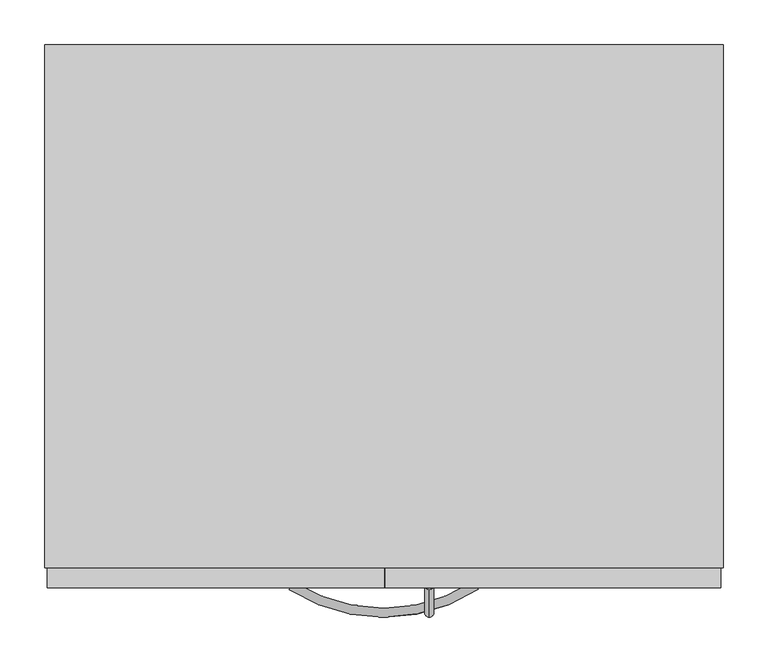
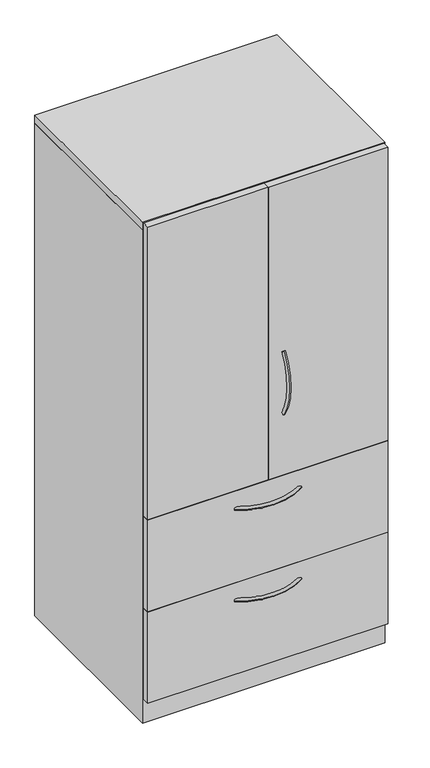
"""IFC4 building model written with IfcOpenShell, lengths in millimetres: furniture geometry, Steelcase - Universal Storage - Cabinet - Combination - Proud Steel : 65 1/2H - Hinged Doors/2 Drawers - 24D x 30W."""

from ifc_helpers import new_model, si_unit, point, frame, origin, place, context, project, spatial, polyline, circle_curve, ellipse_curve, trimmed, outline, extrude, faceted_brep, source, transform, mapped, element, save
from ifc_brep_helpers import plane_surface, revolved_surface, advanced_brep


def furniture_47684e0d(model_context):
    return source(origin(), model_context, "Body", "SolidModel", [
        extrude(outline(polyline([(758.8225413, -479.552), (3.1725353, -479.552), (3.1725353, -457.3261219), (758.8225413, -457.3261219), (758.8225413, -479.552)])), frame((0.0, 0.0, 77.724), z_axis=(0.0, 0.0, 1.0), x_axis=(1.0, 0.0, 0.0)), (0.0, 0.0, 1.0), 303.276),
        extrude(outline(polyline([(758.8225413, -479.552), (3.1725353, -479.552), (3.1725353, -457.3261219), (758.8225413, -457.3261219), (758.8225413, -479.552)])), frame((0.0, 0.0, 382.524), z_axis=(0.0, 0.0, 1.0), x_axis=(1.0, 0.0, 0.0)), (0.0, 0.0, 1.0), 303.276),
        extrude(outline(polyline([(381.0, -479.552), (3.1725353, -479.552), (3.1725353, -457.3261219), (381.0, -457.3261219), (381.0, -479.552)])), frame((0.0, 0.0, 687.7062596), z_axis=(0.0, 0.0, 1.0), x_axis=(1.0, 0.0, 0.0)), (0.0, 0.0, 1.0), 972.82),
        extrude(outline(polyline([(758.8225413, -479.552), (382.5239992, -479.552), (382.5239992, -457.3261219), (758.8225413, -457.3261219), (758.8225413, -479.552)])), frame((0.0, 0.0, 687.7062596), z_axis=(0.0, 0.0, 1.0), x_axis=(1.0, 0.0, 0.0)), (0.0, 0.0, 1.0), 972.82),
        advanced_brep(
        [(431.7682496, -481.5705994, 1099.843666), (431.7682496, -473.0108019, 1094.3705073), (431.7682496, -481.1337636, 887.5367456), (431.7682496, -472.5965612, 893.0450825)],
        [
            (0, 1, circle_curve(frame((431.7682496, -477.2907007, 1097.1070866), z_axis=(0.0, 0.5386967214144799, 0.842499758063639), x_axis=(0.0, 0.842499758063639, -0.5386967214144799)), 5.08)),
            (1, 0, circle_curve(frame((431.7682496, -477.2907007, 1097.1070866), z_axis=(0.0, 0.5386967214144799, 0.842499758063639), x_axis=(0.0, 0.842499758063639, -0.5386967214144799)), 5.08)),
            (2, 3, circle_curve(frame((431.7682496, -476.8651624, 890.2909141), z_axis=(0.0, 0.5421591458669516, -0.8402758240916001), x_axis=(0.0, 0.8402758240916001, 0.5421591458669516)), 5.08)),
            (3, 2, circle_curve(frame((431.7682496, -476.8651624, 890.2909141), z_axis=(0.0, 0.5421591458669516, -0.8402758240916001), x_axis=(0.0, 0.8402758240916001, 0.5421591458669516)), 5.08)),
            (3, 1, circle_curve(frame((431.7682496, -316.0827352, 994.0302589), z_axis=(-1.0, 0.0, 0.0), x_axis=(0.0, -0.8424997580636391, 0.5386967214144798)), 186.2648211)),
            (0, 2, circle_curve(frame((431.7682496, -316.0827352, 994.0302589), z_axis=(1.0, 0.0, 0.0), x_axis=(0.0, -0.8424997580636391, 0.5386967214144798)), 196.4248211)),
        ],
        [
            plane_surface(frame((432.5619996, -476.6365286, 1096.6888072), z_axis=(0.0, 0.5386967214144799, 0.8424997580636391), x_axis=(1.0, 0.0, 0.0))),
            plane_surface(frame((432.5619996, -476.2127171, 890.711882), z_axis=(0.0, 0.5421591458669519, -0.8402758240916), x_axis=(1.0, 0.0, 0.0))),
            revolved_surface(trimmed(ellipse_curve(frame((431.7682496, -477.2907007, 1097.1070866), z_axis=(0.0, 0.5386967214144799, 0.842499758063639), x_axis=(0.0, 0.842499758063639, -0.5386967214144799)), 5.08, 5.08), [point((431.7682496, -481.5705994, 1099.843666))], [point((431.7682496, -473.0108019, 1094.3705073))], True, "CARTESIAN"), (432.5619996, -316.0827352, 994.0302589), (1.0, 0.0, 0.0)),
            revolved_surface(trimmed(ellipse_curve(frame((431.7682496, -477.2907007, 1097.1070866), z_axis=(0.0, 0.5386967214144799, 0.842499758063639), x_axis=(0.0, 0.842499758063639, -0.5386967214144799)), 5.08, 5.08), [point((431.7682496, -473.0108019, 1094.3705073))], [point((431.7682496, -481.5705994, 1099.843666))], True, "CARTESIAN"), (432.5619996, -316.0827352, 994.0302589), (1.0, 0.0, 0.0)),
        ],
        [
            (0, [[1, 2]]),
            (1, [[3, 4]]),
            (2, [[5, -1, 6, -4]]),
            (3, [[-6, -2, -5, -3]]),
        ],
    ),
        advanced_brep(
        [(274.4245932, -481.5705994, 323.56425), (279.8977519, -473.0108019, 323.56425), (486.7315136, -481.1337636, 323.56425), (481.2231767, -472.5965612, 323.56425)],
        [
            (0, 1, circle_curve(frame((277.1611726, -477.2907007, 323.56425), z_axis=(-0.8424997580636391, 0.5386967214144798, 0.0), x_axis=(0.5386967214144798, 0.8424997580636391, 0.0)), 5.08)),
            (1, 0, circle_curve(frame((277.1611726, -477.2907007, 323.56425), z_axis=(-0.8424997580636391, 0.5386967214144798, 0.0), x_axis=(0.5386967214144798, 0.8424997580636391, 0.0)), 5.08)),
            (2, 3, circle_curve(frame((483.9773452, -476.8651624, 323.56425), z_axis=(0.8402758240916, 0.5421591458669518, 0.0), x_axis=(-0.5421591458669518, 0.8402758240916, 0.0)), 5.08)),
            (3, 2, circle_curve(frame((483.9773452, -476.8651624, 323.56425), z_axis=(0.8402758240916, 0.5421591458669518, 0.0), x_axis=(-0.5421591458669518, 0.8402758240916, 0.0)), 5.08)),
            (3, 1, circle_curve(frame((380.2380004, -316.0827352, 323.56425), z_axis=(0.0, 0.0, -1.0), x_axis=(-0.5386967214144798, -0.8424997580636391, 0.0)), 186.2648211)),
            (0, 2, circle_curve(frame((380.2380004, -316.0827352, 323.56425), z_axis=(0.0, 0.0, 1.0), x_axis=(-0.5386967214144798, -0.8424997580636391, 0.0)), 196.4248211)),
        ],
        [
            plane_surface(frame((277.5794521, -476.6365286, 324.358), z_axis=(-0.8424997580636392, 0.5386967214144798, 0.0), x_axis=(0.0, 0.0, 1.0))),
            plane_surface(frame((483.5563772, -476.2127171, 324.358), z_axis=(0.8402758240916, 0.5421591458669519, 0.0), x_axis=(0.0, 0.0, 1.0))),
            revolved_surface(trimmed(ellipse_curve(frame((277.1611726, -477.2907007, 323.56425), z_axis=(-0.8424997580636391, 0.5386967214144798, 0.0), x_axis=(0.5386967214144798, 0.8424997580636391, 0.0)), 5.08, 5.08), [point((274.4245932, -481.5705994, 323.56425))], [point((279.8977519, -473.0108019, 323.56425))], True, "CARTESIAN"), (380.2380004, -316.0827352, 324.358), (0.0, 0.0, 1.0)),
            revolved_surface(trimmed(ellipse_curve(frame((277.1611726, -477.2907007, 323.56425), z_axis=(-0.8424997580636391, 0.5386967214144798, 0.0), x_axis=(0.5386967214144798, 0.8424997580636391, 0.0)), 5.08, 5.08), [point((279.8977519, -473.0108019, 323.56425))], [point((274.4245932, -481.5705994, 323.56425))], True, "CARTESIAN"), (380.2380004, -316.0827352, 324.358), (0.0, 0.0, 1.0)),
        ],
        [
            (0, [[1, 2]]),
            (1, [[3, 4]]),
            (2, [[5, -1, 6, -4]]),
            (3, [[-6, -2, -5, -3]]),
        ],
    ),
        advanced_brep(
        [(274.4245932, -481.5705994, 627.85625), (279.8977519, -473.0108019, 627.85625), (486.7315136, -481.1337636, 627.85625), (481.2231767, -472.5965612, 627.85625)],
        [
            (0, 1, circle_curve(frame((277.1611726, -477.2907007, 627.85625), z_axis=(-0.8424997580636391, 0.5386967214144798, 0.0), x_axis=(0.5386967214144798, 0.8424997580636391, 0.0)), 5.08)),
            (1, 0, circle_curve(frame((277.1611726, -477.2907007, 627.85625), z_axis=(-0.8424997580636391, 0.5386967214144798, 0.0), x_axis=(0.5386967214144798, 0.8424997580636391, 0.0)), 5.08)),
            (2, 3, circle_curve(frame((483.9773452, -476.8651624, 627.85625), z_axis=(0.8402758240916, 0.5421591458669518, 0.0), x_axis=(-0.5421591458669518, 0.8402758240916, 0.0)), 5.08)),
            (3, 2, circle_curve(frame((483.9773452, -476.8651624, 627.85625), z_axis=(0.8402758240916, 0.5421591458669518, 0.0), x_axis=(-0.5421591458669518, 0.8402758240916, 0.0)), 5.08)),
            (3, 1, circle_curve(frame((380.2380004, -316.0827352, 627.85625), z_axis=(0.0, 0.0, -1.0), x_axis=(-0.5386967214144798, -0.8424997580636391, 0.0)), 186.2648211)),
            (0, 2, circle_curve(frame((380.2380004, -316.0827352, 627.85625), z_axis=(0.0, 0.0, 1.0), x_axis=(-0.5386967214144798, -0.8424997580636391, 0.0)), 196.4248211)),
        ],
        [
            plane_surface(frame((277.5794521, -476.6365286, 628.65), z_axis=(-0.8424997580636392, 0.5386967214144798, 0.0), x_axis=(0.0, 0.0, 1.0))),
            plane_surface(frame((483.5563772, -476.2127171, 628.65), z_axis=(0.8402758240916, 0.5421591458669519, 0.0), x_axis=(0.0, 0.0, 1.0))),
            revolved_surface(trimmed(ellipse_curve(frame((277.1611726, -477.2907007, 627.85625), z_axis=(-0.8424997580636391, 0.5386967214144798, 0.0), x_axis=(0.5386967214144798, 0.8424997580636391, 0.0)), 5.08, 5.08), [point((274.4245932, -481.5705994, 627.85625))], [point((279.8977519, -473.0108019, 627.85625))], True, "CARTESIAN"), (380.2380004, -316.0827352, 628.65), (0.0, 0.0, 1.0)),
            revolved_surface(trimmed(ellipse_curve(frame((277.1611726, -477.2907007, 627.85625), z_axis=(-0.8424997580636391, 0.5386967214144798, 0.0), x_axis=(0.5386967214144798, 0.8424997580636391, 0.0)), 5.08, 5.08), [point((279.8977519, -473.0108019, 627.85625))], [point((274.4245932, -481.5705994, 627.85625))], True, "CARTESIAN"), (380.2380004, -316.0827352, 628.65), (0.0, 0.0, 1.0)),
        ],
        [
            (0, [[1, 2]]),
            (1, [[3, 4]]),
            (2, [[5, -1, 6, -4]]),
            (3, [[-6, -2, -5, -3]]),
        ],
    ),
        faceted_brep([(25.4000008, -457.3261219, 76.2), (736.6000242, -457.3261219, 76.2), (736.6000242, 104.6479992, 76.2), (25.4000008, 104.6479992, 76.2), (762.0, 130.048, 0.0), (762.0, -457.3261219, 0.0), (0.0, -457.3261219, 0.0), (0.0, 130.048, 0.0), (0.0, 130.048, 1636.776), (762.0, 130.048, 1636.776), (0.0, -457.3261219, 1636.776), (762.0, -457.3261219, 1636.776), (736.6000242, -457.3261219, 1636.776), (25.4000008, -457.3261219, 1636.776), (736.6000242, 104.6479992, 1636.776), (25.4000008, 104.6479992, 1636.776)], [[[0, 1, 2, 3]], [[4, 5, 6, 7]], [[4, 7, 8, 9]], [[8, 7, 6, 10]], [[10, 6, 5, 11, 12, 1, 0, 13]], [[11, 5, 4, 9]], [[14, 12, 11, 9, 8, 10, 13, 15]], [[12, 14, 2, 1]], [[15, 13, 0, 3]], [[14, 15, 3, 2]]]),
        extrude(outline(polyline([(762.0, 130.048), (762.0, -457.3261219), (0.0, -457.3261219), (0.0, 130.048), (762.0, 130.048)])), frame((0.0, 0.0, 1638.2999516), z_axis=(0.0, 0.0, 1.0), x_axis=(1.0, 0.0, 0.0)), (0.0, 0.0, 1.0), 25.4000484),
    ])


if __name__ == "__main__":
    model = new_model("IFC4")
    model_context = context("Model", 3, world=origin())
    ifc_project = project(units=[si_unit("LENGTHUNIT", "METRE", prefix="MILLI")], contexts=[model_context])
    site = spatial("IfcSite", under=ifc_project)
    building = spatial("IfcBuilding", under=site)
    placement = place(None, origin())
    furniture_shape = furniture_47684e0d(model_context)
    element("IfcFurniture", 1, ObjectType="Steelcase - Universal Storage - Cabinet - Combination - Proud Steel : 65 1/2H - Hinged Doors/2 Drawers - 24D x 30W", at=placement, inside=building, context=model_context, shape_type="MappedRepresentation", body=[
        mapped(furniture_shape, transform((0.0, 0.0, 0.0), x_axis=(1.0, 0.0, 0.0), y_axis=(0.0, 1.0, 0.0), z_axis=(0.0, 0.0, 1.0))),
    ])
    save(model, "model.ifc")
